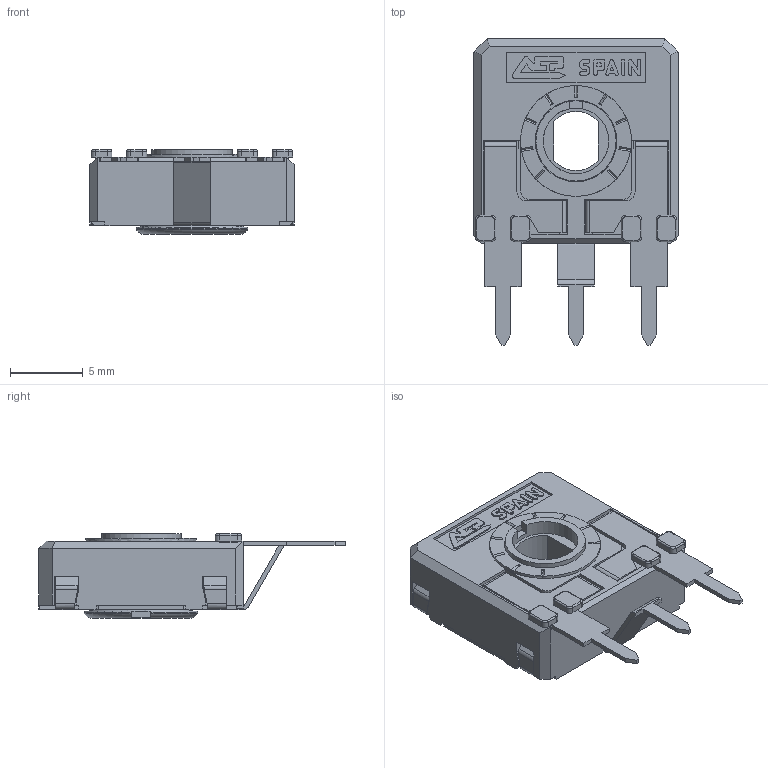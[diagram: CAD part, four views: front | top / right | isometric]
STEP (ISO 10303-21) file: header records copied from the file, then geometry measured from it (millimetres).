
FILE_DESCRIPTION(/* description */ (''),/* implementation_level */ '2;1');
FILE_NAME(/* name */ '\\SERVERACP\intercambio\Ignacio Santa Cecilia\Nueva WEB 2025\CA14 - CE14\CA14ZH0.stp',/* time_stamp */ '2025-07-01T10:18:37+02:00',/* author */ ('CEM'),/* organization */ (''),/* preprocessor_version */ 'ST-DEVELOPER v17',/* originating_system */ 'Autodesk Inventor 2018',/* authorisation */ '');
FILE_SCHEMA (('AUTOMOTIVE_DESIGN { 1 0 10303 214 3 1 1 }'));
Length unit declared in the file: millimetre
Products named in the file (1): CARCASA CA14 PGA
Bounding box: 14 x 21 x 5.8 mm (x, y, z)
Volume: 532.7 mm3; surface area: 1465.4 mm2
Topology: 1 solids, 1 shells, 663 faces, 1873 edges, 1206 vertices
Faces by surface type: plane 491, cylinder 135, torus 23, bspline 8, cone 6
Full cylindrical faces by diameter (mm): 4.5 x1, 5.5 x1, 5.6 x1, 5.752 x1, 6.8 x1, 7.6 x1
Entity records: 21655 total; most frequent: CARTESIAN_POINT 4040, ORIENTED_EDGE 3746, DIRECTION 3496, EDGE_CURVE 1873, LINE 1472, VECTOR 1472, VERTEX_POINT 1206, AXIS2_PLACEMENT_3D 1012
